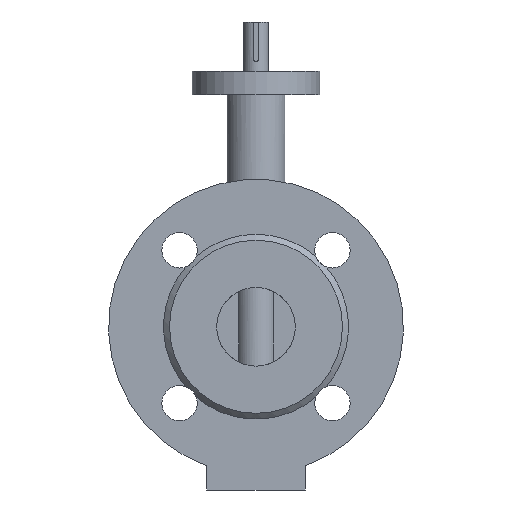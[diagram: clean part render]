
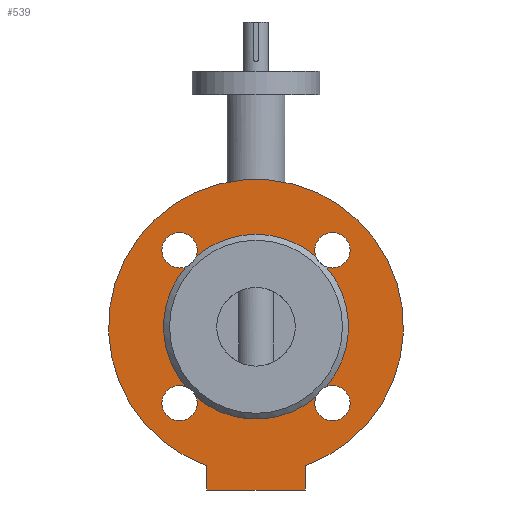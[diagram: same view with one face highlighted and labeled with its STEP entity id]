
A CAD part, front view. The second image highlights one B-rep face of the part: STEP entity #539.
In plain terms, the highlighted planar face has unit normal (0, -1, 0).
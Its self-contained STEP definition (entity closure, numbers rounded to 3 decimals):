
#539=ADVANCED_FACE('',(#1210,#1212),#1214,.T.);
#1210=FACE_BOUND('',#1211,.T.);
#1211=EDGE_LOOP('',(#1682,#1683,#1684,#1685));
#1212=FACE_BOUND('',#1213,.T.);
#1213=EDGE_LOOP('',(#1686,#1687,#1688,#1689,#1690,#1691,#1692,#1693,#1694,#1695,
#1696,#1697,#1698));
#1214=PLANE('',#1215);
#1215=AXIS2_PLACEMENT_3D('',#1216,#1217,#1218);
#1216=CARTESIAN_POINT('',(0.,-51.,0.));
#1217=DIRECTION('',(0.,-1.,0.));
#1218=DIRECTION('',(0.,0.,1.));
#1682=ORIENTED_EDGE('',*,*,#1923,.T.);
#1683=ORIENTED_EDGE('',*,*,#1921,.F.);
#1684=ORIENTED_EDGE('',*,*,#1919,.F.);
#1685=ORIENTED_EDGE('',*,*,#1918,.F.);
#1686=ORIENTED_EDGE('',*,*,#1924,.T.);
#1687=ORIENTED_EDGE('',*,*,#1926,.T.);
#1688=ORIENTED_EDGE('',*,*,#1965,.T.);
#1689=ORIENTED_EDGE('',*,*,#1929,.T.);
#1690=ORIENTED_EDGE('',*,*,#1928,.T.);
#1691=ORIENTED_EDGE('',*,*,#1966,.T.);
#1692=ORIENTED_EDGE('',*,*,#1932,.T.);
#1693=ORIENTED_EDGE('',*,*,#1931,.T.);
#1694=ORIENTED_EDGE('',*,*,#1967,.T.);
#1695=ORIENTED_EDGE('',*,*,#1933,.T.);
#1696=ORIENTED_EDGE('',*,*,#1935,.T.);
#1697=ORIENTED_EDGE('',*,*,#1968,.T.);
#1698=ORIENTED_EDGE('',*,*,#1969,.T.);
#1918=EDGE_CURVE('',#2201,#2199,#2203,.T.);
#1919=EDGE_CURVE('',#2199,#2204,#2205,.T.);
#1921=EDGE_CURVE('',#2204,#2207,#2208,.T.);
#1923=EDGE_CURVE('',#2201,#2207,#2210,.T.);
#1924=EDGE_CURVE('',#2211,#2212,#2213,.F.);
#1926=EDGE_CURVE('',#2212,#2214,#2216,.F.);
#1928=EDGE_CURVE('',#2220,#2217,#2221,.F.);
#1929=EDGE_CURVE('',#2218,#2220,#2222,.F.);
#1931=EDGE_CURVE('',#2226,#2223,#2227,.F.);
#1932=EDGE_CURVE('',#2224,#2226,#2228,.F.);
#1933=EDGE_CURVE('',#2229,#2230,#2231,.F.);
#1935=EDGE_CURVE('',#2230,#2232,#2234,.F.);
#1965=EDGE_CURVE('',#2214,#2218,#2285,.T.);
#1966=EDGE_CURVE('',#2217,#2224,#2286,.T.);
#1967=EDGE_CURVE('',#2223,#2229,#2287,.T.);
#1968=EDGE_CURVE('',#2232,#2288,#2289,.T.);
#1969=EDGE_CURVE('',#2288,#2211,#2290,.T.);
#2199=VERTEX_POINT('',#3137);
#2201=VERTEX_POINT('',#3141);
#2203=CIRCLE('',#3145,75.);
#2204=VERTEX_POINT('',#3149);
#2205=LINE('',#3150,#3151);
#2207=VERTEX_POINT('',#3156);
#2208=LINE('',#3157,#3158);
#2210=LINE('',#3163,#3164);
#2211=VERTEX_POINT('',#3166);
#2212=VERTEX_POINT('',#3167);
#2213=CIRCLE('',#3168,9.);
#2214=VERTEX_POINT('',#3172);
#2216=CIRCLE('',#3240,9.);
#2217=VERTEX_POINT('',#3244);
#2218=VERTEX_POINT('',#3245);
#2220=VERTEX_POINT('',#3313);
#2221=CIRCLE('',#3314,9.);
#2222=CIRCLE('',#3318,9.);
#2223=VERTEX_POINT('',#3322);
#2224=VERTEX_POINT('',#3323);
#2226=VERTEX_POINT('',#3391);
#2227=CIRCLE('',#3392,9.);
#2228=CIRCLE('',#3396,9.);
#2229=VERTEX_POINT('',#3400);
#2230=VERTEX_POINT('',#3401);
#2231=CIRCLE('',#3402,9.);
#2232=VERTEX_POINT('',#3406);
#2234=CIRCLE('',#3474,9.);
#2285=CIRCLE('',#3888,47.);
#2286=CIRCLE('',#3892,47.);
#2287=CIRCLE('',#3896,47.);
#2288=VERTEX_POINT('',#3900);
#2289=CIRCLE('',#3901,47.);
#2290=CIRCLE('',#3905,47.);
#3137=CARTESIAN_POINT('',(25.,-51.,-70.711));
#3141=CARTESIAN_POINT('',(-25.,-51.,-70.711));
#3145=AXIS2_PLACEMENT_3D('',#3146,#3147,#3148);
#3146=CARTESIAN_POINT('',(0.,-51.,0.));
#3147=DIRECTION('',(0.,1.,0.));
#3148=DIRECTION('',(-0.333,0.,-0.943));
#3149=CARTESIAN_POINT('',(25.,-51.,-83.));
#3150=CARTESIAN_POINT('',(25.,-51.,-70.711));
#3151=VECTOR('',#3152,1.);
#3152=DIRECTION('',(0.,0.,-1.));
#3156=CARTESIAN_POINT('',(-25.,-51.,-83.));
#3157=CARTESIAN_POINT('',(25.,-51.,-83.));
#3158=VECTOR('',#3159,1.);
#3159=DIRECTION('',(-1.,0.,0.));
#3163=CARTESIAN_POINT('',(-25.,-51.,-70.711));
#3164=VECTOR('',#3165,1.);
#3165=DIRECTION('',(0.,0.,-1.));
#3166=CARTESIAN_POINT('',(30.432,-51.,35.818));
#3167=CARTESIAN_POINT('',(38.891,-51.,29.891));
#3168=AXIS2_PLACEMENT_3D('',#3169,#3170,#3171);
#3169=CARTESIAN_POINT('',(38.891,-51.,38.891));
#3170=DIRECTION('',(0.,-1.,0.));
#3171=DIRECTION('',(0.,0.,-1.));
#3172=CARTESIAN_POINT('',(35.818,-51.,30.432));
#3240=AXIS2_PLACEMENT_3D('',#3241,#3242,#3243);
#3241=CARTESIAN_POINT('',(38.891,-51.,38.891));
#3242=DIRECTION('',(0.,-1.,0.));
#3243=DIRECTION('',(-0.341,0.,-0.94));
#3244=CARTESIAN_POINT('',(30.432,-51.,-35.818));
#3245=CARTESIAN_POINT('',(35.818,-51.,-30.432));
#3313=CARTESIAN_POINT('',(29.891,-51.,-38.891));
#3314=AXIS2_PLACEMENT_3D('',#3315,#3316,#3317);
#3315=CARTESIAN_POINT('',(38.891,-51.,-38.891));
#3316=DIRECTION('',(0.,-1.,0.));
#3317=DIRECTION('',(-0.94,0.,0.341));
#3318=AXIS2_PLACEMENT_3D('',#3319,#3320,#3321);
#3319=CARTESIAN_POINT('',(38.891,-51.,-38.891));
#3320=DIRECTION('',(0.,-1.,0.));
#3321=DIRECTION('',(-1.,0.,0.));
#3322=CARTESIAN_POINT('',(-35.818,-51.,-30.432));
#3323=CARTESIAN_POINT('',(-30.432,-51.,-35.818));
#3391=CARTESIAN_POINT('',(-38.891,-51.,-29.891));
#3392=AXIS2_PLACEMENT_3D('',#3393,#3394,#3395);
#3393=CARTESIAN_POINT('',(-38.891,-51.,-38.891));
#3394=DIRECTION('',(0.,-1.,0.));
#3395=DIRECTION('',(0.341,0.,0.94));
#3396=AXIS2_PLACEMENT_3D('',#3397,#3398,#3399);
#3397=CARTESIAN_POINT('',(-38.891,-51.,-38.891));
#3398=DIRECTION('',(0.,-1.,0.));
#3399=DIRECTION('',(0.,0.,1.));
#3400=CARTESIAN_POINT('',(-35.818,-51.,30.432));
#3401=CARTESIAN_POINT('',(-29.891,-51.,38.891));
#3402=AXIS2_PLACEMENT_3D('',#3403,#3404,#3405);
#3403=CARTESIAN_POINT('',(-38.891,-51.,38.891));
#3404=DIRECTION('',(0.,-1.,0.));
#3405=DIRECTION('',(1.,0.,0.));
#3406=CARTESIAN_POINT('',(-30.432,-51.,35.818));
#3474=AXIS2_PLACEMENT_3D('',#3475,#3476,#3477);
#3475=CARTESIAN_POINT('',(-38.891,-51.,38.891));
#3476=DIRECTION('',(0.,-1.,0.));
#3477=DIRECTION('',(0.94,0.,-0.341));
#3888=AXIS2_PLACEMENT_3D('',#3889,#3890,#3891);
#3889=CARTESIAN_POINT('',(0.,-51.,0.));
#3890=DIRECTION('',(0.,1.,0.));
#3891=DIRECTION('',(0.762,0.,0.647));
#3892=AXIS2_PLACEMENT_3D('',#3893,#3894,#3895);
#3893=CARTESIAN_POINT('',(0.,-51.,0.));
#3894=DIRECTION('',(0.,1.,0.));
#3895=DIRECTION('',(0.647,0.,-0.762));
#3896=AXIS2_PLACEMENT_3D('',#3897,#3898,#3899);
#3897=CARTESIAN_POINT('',(0.,-51.,0.));
#3898=DIRECTION('',(0.,1.,0.));
#3899=DIRECTION('',(-0.762,0.,-0.647));
#3900=CARTESIAN_POINT('',(0.,-51.,47.));
#3901=AXIS2_PLACEMENT_3D('',#3902,#3903,#3904);
#3902=CARTESIAN_POINT('',(0.,-51.,0.));
#3903=DIRECTION('',(0.,1.,0.));
#3904=DIRECTION('',(-0.647,0.,0.762));
#3905=AXIS2_PLACEMENT_3D('',#3906,#3907,#3908);
#3906=CARTESIAN_POINT('',(0.,-51.,0.));
#3907=DIRECTION('',(0.,1.,0.));
#3908=DIRECTION('',(0.,0.,1.));
